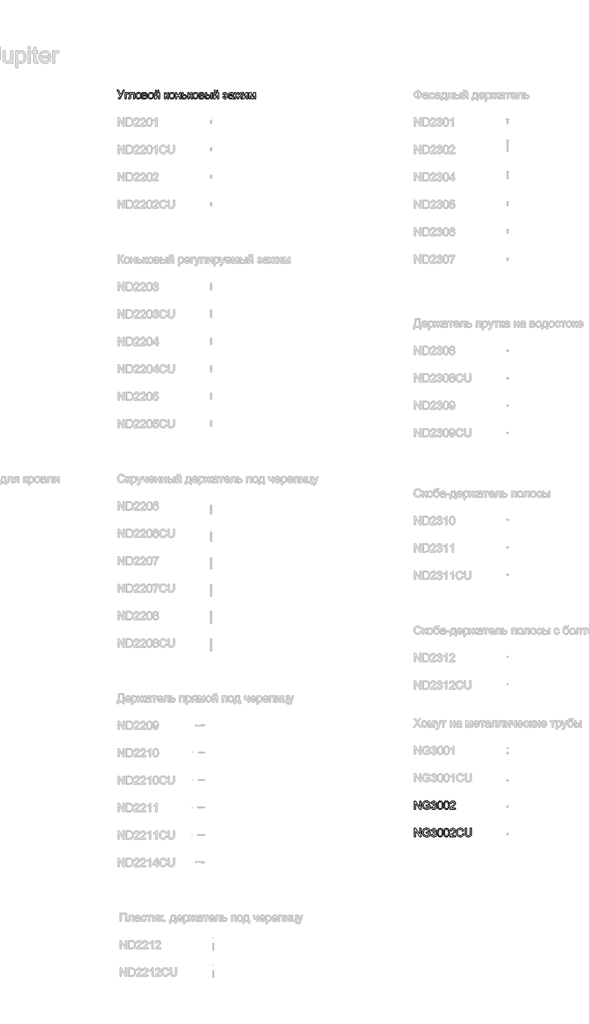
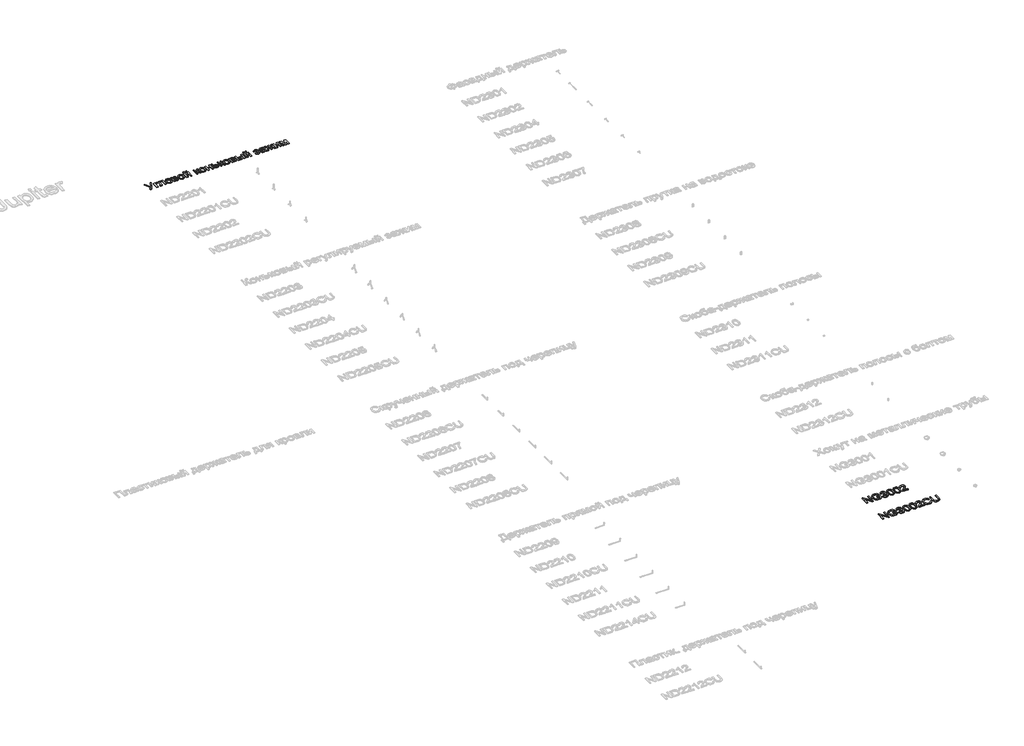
# One storey, part 103 of 124: 3 proxies.
"""IFC4 building model written with IfcOpenShell, lengths in millimetres."""

from ifc_helpers import new_model, si_unit, origin, origin_with_axes, place, context, project, spatial, polyline, outline, extrude, element, save

model = new_model("IFC4")

# Units and contexts
model_context = context("Model", 3, world=origin())
ifc_project = project(units=[si_unit("LENGTHUNIT", "METRE", prefix="MILLI")], contexts=[model_context])

# Site, building, storey
site = spatial("IfcSite", under=ifc_project)
building = spatial("IfcBuilding", under=site)
storey = spatial("IfcBuildingStorey", under=building, Name="Этаж 01", Elevation=0.0)

# Proxies
placement = place(None, origin())
element("IfcBuildingElementProxy", 1, Name="300", ObjectType="300", at=placement, inside=storey, context=model_context, shape_type="SweptSolid", body=[
    extrude(outline(polyline([(23318.9771246, -4218.1451728), (23360.6949429, -4218.1451728), (23450.8260317, -4396.6415169), (23531.9072234, -4218.1451728), (23573.2571597, -4218.1451728), (23458.8458592, -4452.9274621), (23441.5737995, -4489.3845679), (23427.7230424, -4510.611359), (23412.9525803, -4520.8200843), (23392.9214056, -4524.2229928), (23359.0026857, -4519.5141033), (23359.0026857, -4486.5518765), (23388.6539745, -4486.5518765), (23400.5181688, -4484.4549491), (23410.6533178, -4478.164167), (23420.3837966, -4464.4237745), (23431.0339803, -4439.9780159), (23318.9771246, -4218.1451728)])), origin_with_axes(), (0.0, 0.0, 1.0), 20.0),
    extrude(outline(polyline([(23603.8649417, -4298.196295), (23726.2960697, -4298.196295), (23726.2960697, -4335.8674113), (23641.536058, -4335.8674113), (23641.536058, -4519.5141033), (23603.8649417, -4519.5141033), (23603.8649417, -4298.196295)])), origin_with_axes(), (0.0, 0.0, 1.0), 20.0),
    extrude(outline(polyline([(23773.384965, -4298.196295), (23942.9049884, -4298.196295), (23942.9049884, -4519.2933741), (23905.2338721, -4519.2933741), (23905.2338721, -4335.8674113), (23811.0560814, -4335.8674113), (23811.0560814, -4441.4495439), (23808.5176956, -4490.15712), (23803.7628208, -4501.1843829), (23794.574968, -4510.7217236), (23780.6322404, -4517.3160083), (23761.6127412, -4519.5141033), (23731.0049592, -4517.6011169), (23731.0049592, -4481.842987), (23747.8539546, -4481.842987), (23764.886891, -4479.5253304), (23771.6927079, -4472.1676905), (23773.384965, -4439.3158283), (23773.384965, -4298.196295)])), origin_with_axes(), (0.0, 0.0, 1.0), 20.0),
    extrude(outline(polyline([(23989.9938838, -4408.8551991), (23992.0310304, -4380.1925932), (23998.14247, -4355.4939157), (24008.3282027, -4334.7591668), (24022.5882286, -4317.9883463), (24036.9448234, -4307.2691847), (24052.7913404, -4299.6126406), (24070.1277794, -4295.0187142), (24088.9541405, -4293.4874054), (24109.737174, -4295.3521073), (24128.5290461, -4300.9462129), (24145.329757, -4310.2697222), (24160.1393066, -4323.3226352), (24172.2265294, -4339.6634936), (24180.86026, -4358.8508389), (24186.0404983, -4380.8846712), (24187.7672444, -4405.7649904), (24184.7138239, -4443.8223828), (24175.5535622, -4472.7930899), (24160.5531738, -4494.4889305), (24139.9793732, -4510.7217236), (24115.5428117, -4520.8476755), (24088.9541405, -4524.2229928), (24067.8676044, -4522.3651887), (24048.9009883, -4516.7917765), (24032.0542922, -4507.5027561), (24017.3275161, -4494.4981276), (24005.3690519, -4477.9986201), (23996.8272919, -4458.2249629), (23991.7022358, -4435.1771559), (23989.9938838, -4408.8551991)]), holes=[polyline([(24027.6650001, -4408.7816227), (24032.0244018, -4442.8750866), (24045.1026067, -4467.1644953), (24064.7842934, -4481.7050312), (24088.9541405, -4486.5518765), (24113.013623, -4481.6774401), (24132.6585215, -4467.0541307), (24145.7367265, -4442.4428253), (24150.0961281, -4407.6044003), (24145.7091353, -4374.5042178), (24132.5481569, -4350.5459029), (24112.8756672, -4336.005367), (24088.9541405, -4331.1585217), (24064.7842934, -4335.9869729), (24045.1026067, -4350.4723265), (24032.0244018, -4374.7065529), (24027.6650001, -4408.7816227)])]), origin_with_axes(), (0.0, 0.0, 1.0), 20.0),
    extrude(outline(polyline([(24230.1472503, -4298.196295), (24313.1414284, -4298.196295), (24339.8220701, -4299.4562908), (24358.6484312, -4303.2362783), (24372.4991883, -4310.373189), (24384.253018, -4321.7039545), (24392.2820426, -4336.4652195), (24394.9583841, -4353.893629), (24393.3397033, -4367.9375242), (24388.483661, -4380.0500389), (24380.371863, -4390.2863554), (24368.9859152, -4398.701656), (24382.9286429, -4406.5283455), (24394.2961965, -4419.1191068), (24401.8561715, -4435.4806585), (24404.3761632, -4454.6197193), (24397.9934106, -4483.332909), (24382.8182783, -4503.5480247), (24358.795584, -4515.5225836), (24325.8701454, -4519.5141033), (24230.1472503, -4519.5141033), (24230.1472503, -4298.196295)]), holes=[polyline([(24267.8183666, -4382.9563067), (24305.0480245, -4382.9563067), (24335.7661711, -4381.0433203), (24350.7021801, -4373.3913748), (24355.6409959, -4367.0638045), (24357.2872678, -4359.5590118), (24354.3993941, -4348.3202168), (24345.7357731, -4341.0913356), (24330.0823942, -4337.1733924), (24306.2252469, -4335.8674113), (24267.8183666, -4335.8674113), (24267.8183666, -4382.9563067)]), polyline([(24267.8183666, -4481.842987), (24314.0243452, -4481.842987), (24339.2058677, -4480.1415327), (24355.0063994, -4475.03717), (24363.4860794, -4465.7573467), (24366.7050469, -4451.5295106), (24365.0955631, -4442.1025344), (24360.267112, -4433.3929282), (24352.8542898, -4426.5779142), (24343.491693, -4422.8347149), (24310.3455252, -4420.627423), (24267.8183666, -4420.627423), (24267.8183666, -4481.842987)])]), origin_with_axes(), (0.0, 0.0, 1.0), 20.0),
    extrude(outline(polyline([(24442.0472795, -4408.8551991), (24444.084426, -4380.1925932), (24450.1958657, -4355.4939157), (24460.3815984, -4334.7591668), (24474.6416243, -4317.9883463), (24488.9982191, -4307.2691847), (24504.8447361, -4299.6126406), (24522.1811751, -4295.0187142), (24541.0075362, -4293.4874054), (24561.7905696, -4295.3521073), (24580.5824418, -4300.9462129), (24597.3831527, -4310.2697222), (24612.1927023, -4323.3226352), (24624.2799251, -4339.6634936), (24632.9136556, -4358.8508389), (24638.093894, -4380.8846712), (24639.8206401, -4405.7649904), (24636.7672195, -4443.8223828), (24627.6069578, -4472.7930899), (24612.6065695, -4494.4889305), (24592.0327689, -4510.7217236), (24567.5962074, -4520.8476755), (24541.0075362, -4524.2229928), (24519.9210001, -4522.3651887), (24500.954384, -4516.7917765), (24484.1076878, -4507.5027561), (24469.3809117, -4494.4981276), (24457.4224476, -4477.9986201), (24448.8806875, -4458.2249629), (24443.7556315, -4435.1771559), (24442.0472795, -4408.8551991)]), holes=[polyline([(24479.7183958, -4408.7816227), (24484.0777974, -4442.8750866), (24497.1560024, -4467.1644953), (24516.8376891, -4481.7050312), (24541.0075362, -4486.5518765), (24565.0670187, -4481.6774401), (24584.7119172, -4467.0541307), (24597.7901221, -4442.4428253), (24602.1495238, -4407.6044003), (24597.762531, -4374.5042178), (24584.6015526, -4350.5459029), (24564.9290629, -4336.005367), (24541.0075362, -4331.1585217), (24516.8376891, -4335.9869729), (24497.1560024, -4350.4723265), (24484.0777974, -4374.7065529), (24479.7183958, -4408.7816227)])]), origin_with_axes(), (0.0, 0.0, 1.0), 20.0),
    extrude(outline(polyline([(24682.2006459, -4298.196295), (24719.8717622, -4298.196295), (24719.8717622, -4466.9805543), (24812.4308722, -4298.196295), (24861.1384484, -4298.196295), (24861.1384484, -4519.5141033), (24823.4673321, -4519.5141033), (24823.4673321, -4351.7599135), (24731.4968333, -4519.5141033), (24682.2006459, -4519.5141033), (24682.2006459, -4298.196295)])), origin_with_axes(), (0.0, 0.0, 1.0), 20.0),
    extrude(outline(polyline([(24804.6317739, -4218.1451728), (24832.8851112, -4218.1451728), (24826.8058612, -4242.2690346), (24814.601376, -4260.0469321), (24796.8234786, -4271.0006185), (24774.0239919, -4274.6518473), (24749.2839278, -4271.0282096), (24730.0988817, -4260.1572967), (24716.9838886, -4242.4069904), (24710.4539832, -4218.1451728), (24738.7073204, -4218.1451728), (24742.6804459, -4230.5519931), (24749.3023219, -4239.3719639), (24758.6097363, -4244.6418735), (24770.6394776, -4246.39851), (24784.2143232, -4244.6970558), (24794.0367725, -4239.5926931), (24800.6586484, -4230.8279046), (24804.6317739, -4218.1451728)])), origin_with_axes(), (0.0, 0.0, 1.0), 20.0),
    extrude(outline(polyline([(25035.3673613, -4298.196295), (25073.0384776, -4298.196295), (25073.0384776, -4392.3740857), (25088.3607627, -4390.6818285), (25098.2751825, -4385.605057), (25107.0491681, -4372.3613052), (25118.9501506, -4346.1681071), (25136.1302398, -4312.1390226), (25151.286978, -4301.0657745), (25178.8413394, -4298.196295), (25186.0518265, -4298.196295), (25186.0518265, -4336.0881405), (25175.8982835, -4335.8674113), (25157.5041837, -4339.8405368), (25144.5547375, -4364.6357833), (25129.3612111, -4391.4543807), (25108.0608435, -4404.587768), (25119.9986143, -4409.8898672), (25131.8260204, -4419.2478655), (25155.1497389, -4450.131559), (25195.4696056, -4519.5141033), (25152.6481414, -4519.5141033), (25113.1376151, -4451.603087), (25093.2719873, -4422.8715031), (25083.982967, -4417.6567758), (25073.0384776, -4415.9185334), (25073.0384776, -4519.5141033), (25035.3673613, -4519.5141033), (25035.3673613, -4298.196295)])), origin_with_axes(), (0.0, 0.0, 1.0), 20.0),
    extrude(outline(polyline([(25209.5962742, -4408.8551991), (25211.6334208, -4380.1925932), (25217.7448604, -4355.4939157), (25227.9305932, -4334.7591668), (25242.190619, -4317.9883463), (25256.5472139, -4307.2691847), (25272.3937308, -4299.6126406), (25289.7301698, -4295.0187142), (25308.5565309, -4293.4874054), (25329.3395644, -4295.3521073), (25348.1314366, -4300.9462129), (25364.9321474, -4310.2697222), (25379.741697, -4323.3226352), (25391.8289198, -4339.6634936), (25400.4626504, -4358.8508389), (25405.6428887, -4380.8846712), (25407.3696348, -4405.7649904), (25404.3162143, -4443.8223828), (25395.1559526, -4472.7930899), (25380.1555642, -4494.4889305), (25359.5817637, -4510.7217236), (25335.1452021, -4520.8476755), (25308.5565309, -4524.2229928), (25287.4699948, -4522.3651887), (25268.5033787, -4516.7917765), (25251.6566826, -4507.5027561), (25236.9299065, -4494.4981276), (25224.9714424, -4477.9986201), (25216.4296823, -4458.2249629), (25211.3046262, -4435.1771559), (25209.5962742, -4408.8551991)]), holes=[polyline([(25247.2673905, -4408.7816227), (25251.6267922, -4442.8750866), (25264.7049971, -4467.1644953), (25284.3866838, -4481.7050312), (25308.5565309, -4486.5518765), (25332.6160134, -4481.6774401), (25352.2609119, -4467.0541307), (25365.3391169, -4442.4428253), (25369.6985185, -4407.6044003), (25365.3115257, -4374.5042178), (25352.1505473, -4350.5459029), (25332.4780577, -4336.005367), (25308.5565309, -4331.1585217), (25284.3866838, -4335.9869729), (25264.7049971, -4350.4723265), (25251.6267922, -4374.7065529), (25247.2673905, -4408.7816227)])]), origin_with_axes(), (0.0, 0.0, 1.0), 20.0),
    extrude(outline(polyline([(25449.7496407, -4298.196295), (25487.420757, -4298.196295), (25487.420757, -4382.9563067), (25586.3074373, -4382.9563067), (25586.3074373, -4298.196295), (25623.9785536, -4298.196295), (25623.9785536, -4519.5141033), (25586.3074373, -4519.5141033), (25586.3074373, -4420.627423), (25487.420757, -4420.627423), (25487.420757, -4519.5141033), (25449.7496407, -4519.5141033), (25449.7496407, -4298.196295)])), origin_with_axes(), (0.0, 0.0, 1.0), 20.0),
    extrude(outline(polyline([(25680.485228, -4298.196295), (25718.1563444, -4298.196295), (25718.1563444, -4378.2474171), (25761.5664198, -4378.2474171), (25799.2007479, -4382.9655037), (25814.348289, -4388.8631119), (25827.0494149, -4397.1197635), (25837.0925934, -4407.4503497), (25844.2662923, -4419.5697622), (25850.0052514, -4449.1750658), (25845.1216179, -4476.131619), (25830.4707175, -4498.8759233), (25819.2388203, -4507.9051271), (25805.0776628, -4514.3545583), (25767.9675665, -4519.5141033), (25680.485228, -4519.5141033), (25680.485228, -4298.196295)]), holes=[polyline([(25718.1563444, -4481.842987), (25753.3258631, -4481.842987), (25780.6135101, -4479.8656212), (25798.7592895, -4473.9335241), (25808.9404237, -4463.8075721), (25812.3341351, -4449.2486422), (25809.8233405, -4436.9429894), (25802.2909566, -4426.0720765), (25786.1501341, -4418.4569192), (25757.8140234, -4415.9185334), (25718.1563444, -4415.9185334), (25718.1563444, -4481.842987)])]), origin_with_axes(), (0.0, 0.0, 1.0), 20.0),
    extrude(outline(polyline([(25897.0941468, -4298.196295), (25934.7652631, -4298.196295), (25934.7652631, -4392.3740857), (25950.0875482, -4390.6818285), (25960.001968, -4385.605057), (25968.7759536, -4372.3613052), (25980.6769361, -4346.1681071), (25997.8570253, -4312.1390226), (26013.0137635, -4301.0657745), (26040.5681249, -4298.196295), (26047.778612, -4298.196295), (26047.778612, -4336.0881405), (26037.625069, -4335.8674113), (26019.2309692, -4339.8405368), (26006.281523, -4364.6357833), (25991.0879966, -4391.4543807), (25969.7876291, -4404.587768), (25981.7253998, -4409.8898672), (25993.5528059, -4419.2478655), (26016.8765244, -4450.131559), (26057.1963911, -4519.5141033), (26014.3749269, -4519.5141033), (25974.8644006, -4451.603087), (25954.9987728, -4422.8715031), (25945.7097525, -4417.6567758), (25934.7652631, -4415.9185334), (25934.7652631, -4519.5141033), (25897.0941468, -4519.5141033), (25897.0941468, -4298.196295)])), origin_with_axes(), (0.0, 0.0, 1.0), 20.0),
    extrude(outline(polyline([(26071.3230597, -4408.8551991), (26073.3602063, -4380.1925932), (26079.4716459, -4355.4939157), (26089.6573787, -4334.7591668), (26103.9174045, -4317.9883463), (26118.2739994, -4307.2691847), (26134.1205163, -4299.6126406), (26151.4569553, -4295.0187142), (26170.2833164, -4293.4874054), (26191.0663499, -4295.3521073), (26209.8582221, -4300.9462129), (26226.6589329, -4310.2697222), (26241.4684825, -4323.3226352), (26253.5557053, -4339.6634936), (26262.1894359, -4358.8508389), (26267.3696742, -4380.8846712), (26269.0964203, -4405.7649904), (26266.0429998, -4443.8223828), (26256.8827381, -4472.7930899), (26241.8823497, -4494.4889305), (26221.3085492, -4510.7217236), (26196.8719876, -4520.8476755), (26170.2833164, -4524.2229928), (26149.1967803, -4522.3651887), (26130.2301642, -4516.7917765), (26113.3834681, -4507.5027561), (26098.656692, -4494.4981276), (26086.6982279, -4477.9986201), (26078.1564678, -4458.2249629), (26073.0314117, -4435.1771559), (26071.3230597, -4408.8551991)]), holes=[polyline([(26108.994176, -4408.7816227), (26113.3535777, -4442.8750866), (26126.4317826, -4467.1644953), (26146.1134693, -4481.7050312), (26170.2833164, -4486.5518765), (26194.3427989, -4481.6774401), (26213.9876975, -4467.0541307), (26227.0659024, -4442.4428253), (26231.425304, -4407.6044003), (26227.0383112, -4374.5042178), (26213.8773329, -4350.5459029), (26194.2048432, -4336.005367), (26170.2833164, -4331.1585217), (26146.1134693, -4335.9869729), (26126.4317826, -4350.4723265), (26113.3535777, -4374.7065529), (26108.994176, -4408.7816227)])]), origin_with_axes(), (0.0, 0.0, 1.0), 20.0),
    extrude(outline(polyline([(26311.4764262, -4298.196295), (26394.4706043, -4298.196295), (26421.151246, -4299.4562908), (26439.9776071, -4303.2362783), (26453.8283642, -4310.373189), (26465.582194, -4321.7039545), (26473.6112185, -4336.4652195), (26476.28756, -4353.893629), (26474.6688792, -4367.9375242), (26469.8128369, -4380.0500389), (26461.7010389, -4390.2863554), (26450.3150912, -4398.701656), (26464.2578188, -4406.5283455), (26475.6253724, -4419.1191068), (26483.1853474, -4435.4806585), (26485.7053391, -4454.6197193), (26479.3225865, -4483.332909), (26464.1474542, -4503.5480247), (26440.1247599, -4515.5225836), (26407.1993213, -4519.5141033), (26311.4764262, -4519.5141033), (26311.4764262, -4298.196295)]), holes=[polyline([(26349.1475425, -4382.9563067), (26386.3772004, -4382.9563067), (26417.095347, -4381.0433203), (26432.031356, -4373.3913748), (26436.9701718, -4367.0638045), (26438.6164437, -4359.5590118), (26435.72857, -4348.3202168), (26427.0649491, -4341.0913356), (26411.4115702, -4337.1733924), (26387.5544228, -4335.8674113), (26349.1475425, -4335.8674113), (26349.1475425, -4382.9563067)]), polyline([(26349.1475425, -4481.842987), (26395.3535211, -4481.842987), (26420.5350436, -4480.1415327), (26436.3355753, -4475.03717), (26444.8152553, -4465.7573467), (26448.0342228, -4451.5295106), (26446.4247391, -4442.1025344), (26441.5962879, -4433.3929282), (26434.1834657, -4426.5779142), (26424.8208689, -4422.8347149), (26391.6747011, -4420.627423), (26349.1475425, -4420.627423), (26349.1475425, -4481.842987)])]), origin_with_axes(), (0.0, 0.0, 1.0), 20.0),
    extrude(outline(polyline([(26739.9853742, -4298.196295), (26777.6564905, -4298.196295), (26777.6564905, -4519.5141033), (26739.9853742, -4519.5141033), (26739.9853742, -4298.196295)])), origin_with_axes(), (0.0, 0.0, 1.0), 20.0),
    extrude(outline(polyline([(26532.7942345, -4298.196295), (26570.4653508, -4298.196295), (26570.4653508, -4378.2474171), (26617.0392114, -4378.2474171), (26657.2946987, -4382.9655037), (26673.5113969, -4388.8631119), (26687.1207314, -4397.1197635), (26697.8881776, -4407.4503497), (26705.5792106, -4419.5697622), (26710.1938303, -4433.4780009), (26711.7320369, -4449.1750658), (26706.5724919, -4476.131619), (26691.093857, -4498.8759233), (26679.2319619, -4507.9051271), (26664.2844566, -4514.3545583), (26625.1326153, -4519.5141033), (26532.7942345, -4519.5141033), (26532.7942345, -4298.196295)]), holes=[polyline([(26570.4653508, -4481.842987), (26609.1665367, -4481.842987), (26639.1673134, -4479.8656212), (26659.1249116, -4473.9335241), (26670.3269184, -4463.8075721), (26674.0609206, -4449.2486422), (26671.2926086, -4436.9429894), (26662.9876726, -4426.0720765), (26645.2281692, -4418.4569192), (26614.0961554, -4415.9185334), (26570.4653508, -4415.9185334), (26570.4653508, -4481.842987)])]), origin_with_axes(), (0.0, 0.0, 1.0), 20.0),
    extrude(outline(polyline([(26834.1631649, -4298.196295), (26871.8342812, -4298.196295), (26871.8342812, -4466.9805543), (26964.3933912, -4298.196295), (27013.1009674, -4298.196295), (27013.1009674, -4519.5141033), (26975.4298511, -4519.5141033), (26975.4298511, -4351.7599135), (26883.4593523, -4519.5141033), (26834.1631649, -4519.5141033), (26834.1631649, -4298.196295)])), origin_with_axes(), (0.0, 0.0, 1.0), 20.0),
    extrude(outline(polyline([(26956.5942929, -4218.1451728), (26984.8476301, -4218.1451728), (26978.7683802, -4242.2690346), (26966.563895, -4260.0469321), (26948.7859976, -4271.0006185), (26925.9865109, -4274.6518473), (26901.2464467, -4271.0282096), (26882.0614007, -4260.1572967), (26868.9464076, -4242.4069904), (26862.4165021, -4218.1451728), (26890.6698394, -4218.1451728), (26894.6429649, -4230.5519931), (26901.2648408, -4239.3719639), (26910.5722553, -4244.6418735), (26922.6019966, -4246.39851), (26936.1768422, -4244.6970558), (26945.9992915, -4239.5926931), (26952.6211674, -4230.8279046), (26956.5942929, -4218.1451728)])), origin_with_axes(), (0.0, 0.0, 1.0), 20.0),
    extrude(outline(polyline([(27239.1276652, -4420.627423), (27239.1276652, -4382.9563067), (27268.8525304, -4381.4847787), (27283.8621158, -4373.6488922), (27289.1596166, -4366.3004493), (27290.9254501, -4357.2781434), (27288.5618083, -4346.5635803), (27281.4708829, -4338.2586442), (27270.6459551, -4332.9335524), (27257.0803066, -4331.1585217), (27243.3675052, -4332.9243553), (27231.8803899, -4338.221856), (27222.6189607, -4347.0510239), (27215.5832175, -4359.411859), (27173.2032117, -4354.7029694), (27184.4420066, -4327.9211602), (27201.5301253, -4308.7912964), (27224.4675677, -4297.3133782), (27253.2543338, -4293.4874054), (27284.7450326, -4298.1503097), (27308.5837859, -4312.1390226), (27323.5933713, -4332.6024586), (27328.5965664, -4356.6895322), (27326.8169373, -4369.0503672), (27321.4780498, -4380.0868271), (27312.5799041, -4389.7989118), (27300.1225, -4398.1866213), (27314.6630359, -4408.652864), (27325.0281111, -4421.6574925), (27331.2361198, -4437.237295), (27333.305456, -4455.4290597), (27328.0539405, -4483.1581651), (27312.2993941, -4505.1299172), (27287.1086744, -4519.4497239), (27253.5486394, -4524.2229928), (27220.7243684, -4519.8084089), (27195.6072252, -4506.564657), (27178.1972098, -4484.4917373), (27168.4943221, -4453.5896497), (27210.874328, -4448.8807602), (27217.2202924, -4464.8100506), (27227.8704762, -4476.692639), (27241.5924746, -4484.0870671), (27257.153883, -4486.5518765), (27272.3106212, -4484.1882347), (27284.6714562, -4477.0973092), (27292.8936188, -4466.3275638), (27295.6343397, -4452.9274621), (27293.9328854, -4442.3140666), (27288.8285228, -4433.1354108), (27274.3339721, -4422.5404093), (27246.4853051, -4420.4066938), (27239.1276652, -4420.627423)])), origin_with_axes(), (0.0, 0.0, 1.0), 20.0),
    extrude(outline(polyline([(27521.6610375, -4491.260766), (27503.6624109, -4506.6934157), (27485.1303554, -4516.7917765), (27465.6418067, -4522.3651887), (27444.7737005, -4524.2229928), (27413.2921988, -4519.7532266), (27390.0696478, -4506.3439278), (27375.7498412, -4485.9816594), (27370.9765723, -4460.652984), (27372.7791941, -4445.0363933), (27378.1870594, -4430.8545424), (27386.5287836, -4418.7144366), (27397.1329821, -4409.2230811), (27423.5101212, -4396.8622461), (27456.104466, -4391.1968633), (27494.6217109, -4385.237175), (27521.4403083, -4378.2474171), (27521.6610375, -4369.8597076), (27519.0674694, -4353.0475004), (27511.2867652, -4342.0478288), (27493.8859469, -4333.8808485), (27469.6425234, -4331.1585217), (27447.2017217, -4332.9703406), (27431.5299487, -4338.405797), (27420.8429767, -4348.4581726), (27413.3565781, -4364.1207485), (27375.6854618, -4359.411859), (27382.2245643, -4338.8104672), (27391.9826342, -4322.6236594), (27405.8701795, -4310.2444303), (27424.7977082, -4301.0657745), (27447.9466827, -4295.3819977), (27474.4985657, -4293.4874054), (27499.9651968, -4295.1612685), (27520.1527213, -4300.1828577), (27535.3738389, -4307.7336357), (27545.9412492, -4316.9950649), (27552.9494012, -4328.445392), (27557.4927438, -4342.5628636), (27559.3321538, -4375.5250903), (27559.3321538, -4422.3932565), (27561.2451402, -4487.8394635), (27568.7499329, -4519.5141033), (27531.0788166, -4519.5141033), (27521.6610375, -4491.260766)]), holes=[polyline([(27521.6610375, -4415.9185334), (27460.8869319, -4427.4700281), (27428.4765281, -4433.5768692), (27413.7980365, -4443.5096831), (27408.6476886, -4458.0042337), (27411.4527888, -4469.2062404), (27419.8680894, -4478.3848962), (27433.7096495, -4484.5101314), (27452.793528, -4486.5518765), (27473.0270377, -4484.2985993), (27490.9061027, -4477.5387676), (27505.4006533, -4467.5783626), (27515.48062, -4455.7233653), (27519.9503862, -4443.5096831), (27521.4403083, -4426.5871113), (27521.6610375, -4415.9185334)])]), origin_with_axes(), (0.0, 0.0, 1.0), 20.0),
    extrude(outline(polyline([(27747.6877353, -4298.196295), (27747.6877353, -4392.3740857), (27760.9774724, -4390.4335082), (27769.6502905, -4384.6117756), (27790.4356232, -4344.3286972), (27803.4034635, -4319.220751), (27815.2308697, -4305.7010877), (27829.5966616, -4300.0724931), (27850.4739648, -4298.196295), (27865.4099738, -4298.196295), (27865.4099738, -4336.0881405), (27855.0357015, -4335.8674113), (27835.6115322, -4339.7669604), (27822.1470512, -4364.1943249), (27806.5120664, -4390.9761341), (27784.1816293, -4404.587768), (27796.574654, -4409.8898672), (27808.8113288, -4419.2478655), (27832.815629, -4450.131559), (27874.8277529, -4519.5141033), (27831.6384066, -4519.5141033), (27790.2884704, -4451.0880522), (27778.9852961, -4433.1262137), (27769.2088321, -4422.6507739), (27759.3220034, -4417.6015935), (27747.6877353, -4415.9185334), (27747.6877353, -4519.5141033), (27710.016619, -4519.5141033), (27710.016619, -4415.9185334), (27698.4743214, -4417.5648053), (27688.5690987, -4422.5036211), (27678.7190583, -4432.9054845), (27667.3423076, -4450.9408994), (27625.9923713, -4519.5141033), (27582.8766015, -4519.5141033), (27624.7415726, -4450.131559), (27648.9298137, -4419.2478655), (27661.230868, -4409.8898672), (27673.6698779, -4404.587768), (27659.2856919, -4397.3772809), (27649.9782774, -4389.5781826), (27629.6711913, -4350.9505731), (27619.7383774, -4338.221856), (27603.4779932, -4335.6466821), (27592.2943806, -4335.8674113), (27592.2943806, -4298.196295), (27597.9597633, -4298.196295), (27630.9955665, -4300.5507397), (27648.1388674, -4310.55713), (27667.3423076, -4344.3286972), (27687.9069111, -4384.3542582), (27696.5797292, -4390.3691289), (27710.016619, -4392.3740857), (27710.016619, -4298.196295), (27747.6877353, -4298.196295)])), origin_with_axes(), (0.0, 0.0, 1.0), 20.0),
    extrude(outline(polyline([(27893.663311, -4298.196295), (27931.3344273, -4298.196295), (27931.3344273, -4466.9805543), (28023.8935373, -4298.196295), (28072.6011135, -4298.196295), (28072.6011135, -4519.5141033), (28034.9299972, -4519.5141033), (28034.9299972, -4351.7599135), (27942.9594984, -4519.5141033), (27893.663311, -4519.5141033), (27893.663311, -4298.196295)])), origin_with_axes(), (0.0, 0.0, 1.0), 20.0),
    extrude(outline(polyline([(28129.1077879, -4298.196295), (28193.9285955, -4298.196295), (28243.8869704, -4475.3682638), (28297.7448945, -4298.196295), (28359.8433753, -4298.196295), (28359.8433753, -4519.5141033), (28322.172259, -4519.5141033), (28322.172259, -4341.3120648), (28268.0200293, -4519.5141033), (28218.5766892, -4519.5141033), (28166.7789042, -4332.7772025), (28166.7789042, -4519.5141033), (28129.1077879, -4519.5141033), (28129.1077879, -4298.196295)])), origin_with_axes(), (0.0, 0.0, 1.0), 20.0),
])
element("IfcBuildingElementProxy", 2, Name="300", ObjectType="300", at=placement, inside=storey, context=model_context, shape_type="SweptSolid", body=[
    extrude(outline(polyline([(34161.4897718, -30431.446857), (34161.4897718, -30130.0779265), (34201.8096385, -30130.0779265), (34359.2631324, -30368.8333414), (34359.2631324, -30130.0779265), (34396.9342487, -30130.0779265), (34396.9342487, -30431.446857), (34356.6143821, -30431.446857), (34199.1608881, -30192.6178657), (34199.1608881, -30431.446857), (34161.4897718, -30431.446857)])), origin_with_axes(), (0.0, 0.0, 1.0), 20.0),
    extrude(outline(polyline([(34604.1253884, -30313.7246185), (34604.1253884, -30276.0535022), (34726.5565164, -30276.0535022), (34726.5565164, -30388.6989691), (34696.8040601, -30409.3923314), (34666.1135046, -30424.2363699), (34634.5584265, -30433.1759024), (34602.2124021, -30436.1557465), (34559.9519579, -30431.4192658), (34521.7566097, -30417.2098238), (34490.0267876, -30394.024061), (34467.1629216, -30362.3586183), (34453.3397557, -30324.3748023), (34448.7320337, -30282.2339197), (34453.3213616, -30239.7895345), (34467.0893452, -30200.3065994), (34489.4657676, -30167.1880228), (34519.8804115, -30143.8367132), (34556.9261284, -30129.985956), (34599.1957697, -30125.369037), (34630.226616, -30128.0453785), (34658.1304653, -30136.0744031), (34681.6289278, -30148.8766965), (34699.4436134, -30165.8728447), (34712.6229859, -30187.881385), (34722.2155089, -30215.720855), (34687.4874485, -30225.5065161), (34679.7343355, -30205.6500854), (34670.3073594, -30190.6680911), (34657.8361597, -30179.3741139), (34640.9503761, -30170.5817342), (34620.818034, -30164.9255485), (34598.6071585, -30163.0401533), (34572.6070985, -30165.0727013), (34550.3778289, -30171.1703454), (34532.0021233, -30180.5697304), (34517.562755, -30192.5075011), (34498.1753738, -30221.5333905), (34489.3462059, -30249.9706688), (34486.40315, -30280.6888154), (34489.9440142, -30316.7136597), (34500.5666068, -30346.3557515), (34517.9490311, -30369.4035585), (34541.7693902, -30385.6455486), (34569.6456484, -30395.2748598), (34599.1957697, -30398.4846302), (34625.2878002, -30396.0658061), (34650.7360372, -30388.8093337), (34672.8365481, -30378.8121405), (34688.8854001, -30368.1711538), (34688.8854001, -30313.7246185), (34604.1253884, -30313.7246185)])), origin_with_axes(), (0.0, 0.0, 1.0), 20.0),
    extrude(outline(polyline([(34773.6454118, -30351.3957348), (34811.3165281, -30346.6868453), (34819.7502228, -30370.3600517), (34832.1018608, -30386.3445244), (34848.9784474, -30395.4496038), (34870.9869877, -30398.4846302), (34896.8123038, -30394.3091696), (34916.7515079, -30381.7827876), (34929.4986191, -30363.0943823), (34933.7476561, -30340.4328514), (34929.5354073, -30318.9209517), (34916.8986607, -30301.4741481), (34897.768797, -30289.9134564), (34874.0771965, -30286.0598925), (34847.6632692, -30290.1801708), (34851.857124, -30252.5090545), (34857.8903887, -30252.9505129), (34880.4599491, -30250.2465803), (34900.6382765, -30242.1347823), (34914.8753098, -30228.4127838), (34919.6209875, -30208.8782499), (34916.1812908, -30192.6086687), (34905.8622009, -30179.4109021), (34890.1168515, -30170.6645077), (34870.3983765, -30167.7490428), (34850.6431134, -30170.6920988), (34834.4930938, -30179.5212667), (34822.7024759, -30194.2365465), (34816.0254176, -30214.8379382), (34778.3543013, -30210.1290487), (34789.4459435, -30176.3022992), (34809.1828125, -30151.0472003), (34836.185351, -30135.320245), (34869.0740014, -30130.0779265), (34892.7564048, -30132.6622975), (34914.5074278, -30140.4154106), (34932.8463452, -30152.6474869), (34946.2924321, -30168.6687478), (34954.5421859, -30187.1272269), (34957.2921038, -30206.6709579), (34954.6801416, -30224.8811167), (34946.8442551, -30241.3990183), (34933.8948089, -30255.4705046), (34915.9421675, -30266.3414175), (34939.5234034, -30275.8695612), (34956.9977982, -30292.0931572), (34967.8135289, -30314.1292887), (34971.4187724, -30341.095039), (34969.6161506, -30360.2065086), (34964.2082853, -30377.8096621), (34955.1951764, -30393.9044994), (34942.576824, -30408.4910205), (34927.2039551, -30420.5943381), (34909.9272969, -30429.239565), (34890.7468494, -30434.4267011), (34869.6626125, -30436.1557465), (34850.6063252, -30434.67962), (34833.242295, -30430.2512405), (34817.570522, -30422.870608), (34803.5910062, -30412.5377224), (34791.8693661, -30399.8595892), (34782.9712204, -30385.4432135), (34776.8965689, -30369.2885954), (34773.6454118, -30351.3957348)])), origin_with_axes(), (0.0, 0.0, 1.0), 20.0),
    extrude(outline(polyline([(35004.3809992, -30283.1904129), (35007.1493112, -30234.9518863), (35015.4542472, -30196.4806267), (35029.2130339, -30167.1880228), (35048.3428976, -30146.4854635), (35072.9817942, -30134.1798108), (35103.2676795, -30130.0779265), (35126.4810334, -30132.5059477), (35147.2663661, -30139.7900112), (35164.6487904, -30151.6450085), (35177.6534189, -30167.785831), (35187.4758682, -30188.0745231), (35195.3117547, -30212.3731289), (35200.4437085, -30243.2292312), (35202.1543598, -30283.1904129), (35199.4136389, -30331.153028), (35191.1914763, -30369.5323172), (35177.5154632, -30398.8525122), (35158.4131906, -30419.6378449), (35133.7191116, -30432.0262711), (35103.2676795, -30436.1557465), (35082.519135, -30434.3623218), (35064.1250352, -30428.9820476), (35048.0853802, -30420.014924), (35034.40017, -30407.4609509), (35021.2667828, -30384.7672303), (35011.8857919, -30356.4909005), (35006.2571974, -30322.6319613), (35004.3809992, -30283.1904129)]), holes=[polyline([(35042.0521155, -30283.1168365), (35046.4666994, -30342.3734289), (35051.9849294, -30362.6414276), (35059.7104513, -30376.6692279), (35079.4289262, -30393.0307796), (35103.2676795, -30398.4846302), (35127.1064328, -30393.0123855), (35146.8249077, -30376.5956515), (35154.5504296, -30362.5448585), (35160.0686595, -30342.2814584), (35164.4832435, -30283.1168365), (35160.2158123, -30225.1938164), (35154.8815234, -30204.9924963), (35147.4135189, -30190.6313029), (35127.7318322, -30173.4696079), (35102.8262211, -30167.7490428), (35079.2449852, -30172.7890262), (35060.2990624, -30187.9089762), (35052.3160232, -30203.543961), (35046.6138522, -30224.6235993), (35042.0521155, -30283.1168365)])]), origin_with_axes(), (0.0, 0.0, 1.0), 20.0),
    extrude(outline(polyline([(35235.1165866, -30283.1904129), (35237.8848986, -30234.9518863), (35246.1898346, -30196.4806267), (35259.9486212, -30167.1880228), (35279.078485, -30146.4854635), (35303.7173816, -30134.1798108), (35334.0032669, -30130.0779265), (35357.2166208, -30132.5059477), (35378.0019535, -30139.7900112), (35395.3843778, -30151.6450085), (35408.3890063, -30167.785831), (35418.2114556, -30188.0745231), (35426.0473421, -30212.3731289), (35431.1792959, -30243.2292312), (35432.8899472, -30283.1904129), (35430.1492263, -30331.153028), (35421.9270637, -30369.5323172), (35408.2510505, -30398.8525122), (35389.1487779, -30419.6378449), (35364.454699, -30432.0262711), (35334.0032669, -30436.1557465), (35313.2547223, -30434.3623218), (35294.8606226, -30428.9820476), (35278.8209676, -30420.014924), (35265.1357574, -30407.4609509), (35252.0023701, -30384.7672303), (35242.6213793, -30356.4909005), (35236.9927847, -30322.6319613), (35235.1165866, -30283.1904129)]), holes=[polyline([(35272.7877029, -30283.1168365), (35277.2022868, -30342.3734289), (35282.7205167, -30362.6414276), (35290.4460386, -30376.6692279), (35310.1645136, -30393.0307796), (35334.0032669, -30398.4846302), (35357.8420201, -30393.0123855), (35377.5604951, -30376.5956515), (35385.286017, -30362.5448585), (35390.8042469, -30342.2814584), (35395.2188309, -30283.1168365), (35390.9513997, -30225.1938164), (35385.6171108, -30204.9924963), (35378.1491063, -30190.6313029), (35358.4674195, -30173.4696079), (35333.5618085, -30167.7490428), (35309.9805726, -30172.7890262), (35291.0346498, -30187.9089762), (35283.0516105, -30203.543961), (35277.3494396, -30224.6235993), (35272.7877029, -30283.1168365)])]), origin_with_axes(), (0.0, 0.0, 1.0), 20.0),
    extrude(outline(polyline([(35658.916645, -30393.7757407), (35658.916645, -30431.446857), (35461.1432844, -30431.446857), (35465.1899863, -30405.4743881), (35474.4790067, -30385.176499), (35488.0722464, -30365.4856152), (35507.7355391, -30344.8750265), (35535.2347182, -30321.8180224), (35575.8856787, -30285.7104046), (35600.276255, -30259.057354), (35612.4715431, -30237.4258927), (35616.5366392, -30216.3830426), (35612.7014694, -30197.5198933), (35601.19596, -30181.8389233), (35583.510033, -30171.2715129), (35561.1336107, -30167.7490428), (35537.6351482, -30171.1887395), (35519.3790042, -30181.5078295), (35507.5975833, -30197.8969723), (35503.5232902, -30219.5468278), (35465.8521739, -30214.8379382), (35474.9848445, -30178.3992266), (35483.5312031, -30163.8632893), (35494.7309105, -30151.7829642), (35508.3264495, -30142.2870102), (35524.0603026, -30135.504186), (35561.9429511, -30130.0779265), (35582.1327748, -30131.5862427), (35600.101511, -30136.1111913), (35615.8491597, -30143.6527722), (35629.3757208, -30154.2109854), (35640.239736, -30167.0040818), (35647.9997468, -30181.2503121), (35652.6557533, -30196.9496762), (35654.2077555, -30214.1021742), (35652.5338924, -30232.1191949), (35647.5123031, -30249.823516), (35638.6003618, -30267.8313396), (35625.2554424, -30286.7588683), (35603.9826661, -30309.3560198), (35571.2871537, -30338.3727122), (35527.9506547, -30374.6090887), (35510.9545065, -30393.7757407), (35658.916645, -30393.7757407)])), origin_with_axes(), (0.0, 0.0, 1.0), 20.0),
])
element("IfcBuildingElementProxy", 3, Name="300", ObjectType="300", at=placement, inside=storey, context=model_context, shape_type="SweptSolid", body=[
    extrude(outline(polyline([(34161.4897718, -31431.446857), (34161.4897718, -31130.0779265), (34201.8096385, -31130.0779265), (34359.2631324, -31368.8333414), (34359.2631324, -31130.0779265), (34396.9342487, -31130.0779265), (34396.9342487, -31431.446857), (34356.6143821, -31431.446857), (34199.1608881, -31192.6178657), (34199.1608881, -31431.446857), (34161.4897718, -31431.446857)])), origin_with_axes(), (0.0, 0.0, 1.0), 20.0),
    extrude(outline(polyline([(34604.1253884, -31313.7246185), (34604.1253884, -31276.0535022), (34726.5565164, -31276.0535022), (34726.5565164, -31388.6989691), (34696.8040601, -31409.3923314), (34666.1135046, -31424.2363699), (34634.5584265, -31433.1759024), (34602.2124021, -31436.1557465), (34559.9519579, -31431.4192658), (34521.7566097, -31417.2098238), (34490.0267876, -31394.024061), (34467.1629216, -31362.3586183), (34453.3397557, -31324.3748023), (34448.7320337, -31282.2339197), (34453.3213616, -31239.7895345), (34467.0893452, -31200.3065994), (34489.4657676, -31167.1880228), (34519.8804115, -31143.8367132), (34556.9261284, -31129.985956), (34599.1957697, -31125.369037), (34630.226616, -31128.0453785), (34658.1304653, -31136.0744031), (34681.6289278, -31148.8766965), (34699.4436134, -31165.8728447), (34712.6229859, -31187.881385), (34722.2155089, -31215.720855), (34687.4874485, -31225.5065161), (34679.7343355, -31205.6500854), (34670.3073594, -31190.6680911), (34657.8361597, -31179.3741139), (34640.9503761, -31170.5817342), (34620.818034, -31164.9255485), (34598.6071585, -31163.0401533), (34572.6070985, -31165.0727013), (34550.3778289, -31171.1703454), (34532.0021233, -31180.5697304), (34517.562755, -31192.5075011), (34498.1753738, -31221.5333905), (34489.3462059, -31249.9706688), (34486.40315, -31280.6888154), (34489.9440142, -31316.7136597), (34500.5666068, -31346.3557515), (34517.9490311, -31369.4035585), (34541.7693902, -31385.6455486), (34569.6456484, -31395.2748598), (34599.1957697, -31398.4846302), (34625.2878002, -31396.0658061), (34650.7360372, -31388.8093337), (34672.8365481, -31378.8121405), (34688.8854001, -31368.1711538), (34688.8854001, -31313.7246185), (34604.1253884, -31313.7246185)])), origin_with_axes(), (0.0, 0.0, 1.0), 20.0),
    extrude(outline(polyline([(34773.6454118, -31351.3957348), (34811.3165281, -31346.6868453), (34819.7502228, -31370.3600517), (34832.1018608, -31386.3445244), (34848.9784474, -31395.4496038), (34870.9869877, -31398.4846302), (34896.8123038, -31394.3091696), (34916.7515079, -31381.7827876), (34929.4986191, -31363.0943823), (34933.7476561, -31340.4328514), (34929.5354073, -31318.9209517), (34916.8986607, -31301.4741481), (34897.768797, -31289.9134564), (34874.0771965, -31286.0598925), (34847.6632692, -31290.1801708), (34851.857124, -31252.5090545), (34857.8903887, -31252.9505129), (34880.4599491, -31250.2465803), (34900.6382765, -31242.1347823), (34914.8753098, -31228.4127838), (34919.6209875, -31208.8782499), (34916.1812908, -31192.6086687), (34905.8622009, -31179.4109021), (34890.1168515, -31170.6645077), (34870.3983765, -31167.7490428), (34850.6431134, -31170.6920988), (34834.4930938, -31179.5212667), (34822.7024759, -31194.2365465), (34816.0254176, -31214.8379382), (34778.3543013, -31210.1290487), (34789.4459435, -31176.3022992), (34809.1828125, -31151.0472003), (34836.185351, -31135.320245), (34869.0740014, -31130.0779265), (34892.7564048, -31132.6622975), (34914.5074278, -31140.4154106), (34932.8463452, -31152.6474869), (34946.2924321, -31168.6687478), (34954.5421859, -31187.1272269), (34957.2921038, -31206.6709579), (34954.6801416, -31224.8811167), (34946.8442551, -31241.3990183), (34933.8948089, -31255.4705046), (34915.9421675, -31266.3414175), (34939.5234034, -31275.8695612), (34956.9977982, -31292.0931572), (34967.8135289, -31314.1292887), (34971.4187724, -31341.095039), (34969.6161506, -31360.2065086), (34964.2082853, -31377.8096621), (34955.1951764, -31393.9044994), (34942.576824, -31408.4910205), (34927.2039551, -31420.5943381), (34909.9272969, -31429.239565), (34890.7468494, -31434.4267011), (34869.6626125, -31436.1557465), (34850.6063252, -31434.67962), (34833.242295, -31430.2512405), (34817.570522, -31422.870608), (34803.5910062, -31412.5377224), (34791.8693661, -31399.8595892), (34782.9712204, -31385.4432135), (34776.8965689, -31369.2885954), (34773.6454118, -31351.3957348)])), origin_with_axes(), (0.0, 0.0, 1.0), 20.0),
    extrude(outline(polyline([(35004.3809992, -31283.1904129), (35007.1493112, -31234.9518863), (35015.4542472, -31196.4806267), (35029.2130339, -31167.1880228), (35048.3428976, -31146.4854635), (35072.9817942, -31134.1798108), (35103.2676795, -31130.0779265), (35126.4810334, -31132.5059477), (35147.2663661, -31139.7900112), (35164.6487904, -31151.6450085), (35177.6534189, -31167.785831), (35187.4758682, -31188.0745231), (35195.3117547, -31212.3731289), (35200.4437085, -31243.2292312), (35202.1543598, -31283.1904129), (35199.4136389, -31331.153028), (35191.1914763, -31369.5323172), (35177.5154632, -31398.8525122), (35158.4131906, -31419.6378449), (35133.7191116, -31432.0262711), (35103.2676795, -31436.1557465), (35082.519135, -31434.3623218), (35064.1250352, -31428.9820476), (35048.0853802, -31420.014924), (35034.40017, -31407.4609509), (35021.2667828, -31384.7672303), (35011.8857919, -31356.4909005), (35006.2571974, -31322.6319613), (35004.3809992, -31283.1904129)]), holes=[polyline([(35042.0521155, -31283.1168365), (35046.4666994, -31342.3734289), (35051.9849294, -31362.6414276), (35059.7104513, -31376.6692279), (35079.4289262, -31393.0307796), (35103.2676795, -31398.4846302), (35127.1064328, -31393.0123855), (35146.8249077, -31376.5956515), (35154.5504296, -31362.5448585), (35160.0686595, -31342.2814584), (35164.4832435, -31283.1168365), (35160.2158123, -31225.1938164), (35154.8815234, -31204.9924963), (35147.4135189, -31190.6313029), (35127.7318322, -31173.4696079), (35102.8262211, -31167.7490428), (35079.2449852, -31172.7890262), (35060.2990624, -31187.9089762), (35052.3160232, -31203.543961), (35046.6138522, -31224.6235993), (35042.0521155, -31283.1168365)])]), origin_with_axes(), (0.0, 0.0, 1.0), 20.0),
    extrude(outline(polyline([(35235.1165866, -31283.1904129), (35237.8848986, -31234.9518863), (35246.1898346, -31196.4806267), (35259.9486212, -31167.1880228), (35279.078485, -31146.4854635), (35303.7173816, -31134.1798108), (35334.0032669, -31130.0779265), (35357.2166208, -31132.5059477), (35378.0019535, -31139.7900112), (35395.3843778, -31151.6450085), (35408.3890063, -31167.785831), (35418.2114556, -31188.0745231), (35426.0473421, -31212.3731289), (35431.1792959, -31243.2292312), (35432.8899472, -31283.1904129), (35430.1492263, -31331.153028), (35421.9270637, -31369.5323172), (35408.2510505, -31398.8525122), (35389.1487779, -31419.6378449), (35364.454699, -31432.0262711), (35334.0032669, -31436.1557465), (35313.2547223, -31434.3623218), (35294.8606226, -31428.9820476), (35278.8209676, -31420.014924), (35265.1357574, -31407.4609509), (35252.0023701, -31384.7672303), (35242.6213793, -31356.4909005), (35236.9927847, -31322.6319613), (35235.1165866, -31283.1904129)]), holes=[polyline([(35272.7877029, -31283.1168365), (35277.2022868, -31342.3734289), (35282.7205167, -31362.6414276), (35290.4460386, -31376.6692279), (35310.1645136, -31393.0307796), (35334.0032669, -31398.4846302), (35357.8420201, -31393.0123855), (35377.5604951, -31376.5956515), (35385.286017, -31362.5448585), (35390.8042469, -31342.2814584), (35395.2188309, -31283.1168365), (35390.9513997, -31225.1938164), (35385.6171108, -31204.9924963), (35378.1491063, -31190.6313029), (35358.4674195, -31173.4696079), (35333.5618085, -31167.7490428), (35309.9805726, -31172.7890262), (35291.0346498, -31187.9089762), (35283.0516105, -31203.543961), (35277.3494396, -31224.6235993), (35272.7877029, -31283.1168365)])]), origin_with_axes(), (0.0, 0.0, 1.0), 20.0),
    extrude(outline(polyline([(35658.916645, -31393.7757407), (35658.916645, -31431.446857), (35461.1432844, -31431.446857), (35465.1899863, -31405.4743881), (35474.4790067, -31385.176499), (35488.0722464, -31365.4856152), (35507.7355391, -31344.8750265), (35535.2347182, -31321.8180224), (35575.8856787, -31285.7104046), (35600.276255, -31259.057354), (35612.4715431, -31237.4258927), (35616.5366392, -31216.3830426), (35612.7014694, -31197.5198933), (35601.19596, -31181.8389233), (35583.510033, -31171.2715129), (35561.1336107, -31167.7490428), (35537.6351482, -31171.1887395), (35519.3790042, -31181.5078295), (35507.5975833, -31197.8969723), (35503.5232902, -31219.5468278), (35465.8521739, -31214.8379382), (35474.9848445, -31178.3992266), (35483.5312031, -31163.8632893), (35494.7309105, -31151.7829642), (35508.3264495, -31142.2870102), (35524.0603026, -31135.504186), (35561.9429511, -31130.0779265), (35582.1327748, -31131.5862427), (35600.101511, -31136.1111913), (35615.8491597, -31143.6527722), (35629.3757208, -31154.2109854), (35640.239736, -31167.0040818), (35647.9997468, -31181.2503121), (35652.6557533, -31196.9496762), (35654.2077555, -31214.1021742), (35652.5338924, -31232.1191949), (35647.5123031, -31249.823516), (35638.6003618, -31267.8313396), (35625.2554424, -31286.7588683), (35603.9826661, -31309.3560198), (35571.2871537, -31338.3727122), (35527.9506547, -31374.6090887), (35510.9545065, -31393.7757407), (35658.916645, -31393.7757407)])), origin_with_axes(), (0.0, 0.0, 1.0), 20.0),
    extrude(outline(polyline([(35922.6144591, -31324.31962), (35960.2855754, -31334.0317047), (35952.8313665, -31357.45889), (35942.9031512, -31377.9292237), (35930.5009294, -31395.442706), (35915.6247012, -31409.9993367), (35898.610159, -31421.442766), (35879.7929949, -31429.6166441), (35859.1732091, -31434.5209709), (35836.7508015, -31436.1557465), (35793.0556175, -31431.2077337), (35758.3551483, -31416.3636952), (35731.75728, -31392.1386658), (35712.3698989, -31359.0476803), (35700.5332957, -31320.1441593), (35696.5877613, -31278.4815234), (35701.0483305, -31234.5380191), (35714.4300381, -31196.5909913), (35736.0339082, -31165.8452535), (35765.1609652, -31143.5056194), (35799.7050846, -31129.9031826), (35837.5601419, -31125.369037), (35878.8640929, -31131.2367548), (35896.8328291, -31138.5714021), (35913.0127391, -31148.8399083), (35927.1371084, -31161.7709604), (35938.9392227, -31177.0932455), (35955.5766859, -31214.9115146), (35917.9055696, -31223.8878353), (35904.8457588, -31196.4162473), (35887.003482, -31177.5714921), (35864.1580101, -31166.672988), (35836.0886139, -31163.0401533), (35803.7333924, -31167.0684611), (35777.1539182, -31179.1533847), (35756.9847879, -31198.025731), (35743.8605977, -31222.4163073), (35736.6593076, -31249.9890629), (35734.2588776, -31278.407947), (35737.100766, -31313.2095837), (35745.6264313, -31343.3023309), (35760.1577701, -31367.5365574), (35781.0166792, -31384.7626318), (35806.0234578, -31395.0541306), (35832.9984051, -31398.4846302), (35864.4431187, -31393.8125289), (35890.6455138, -31379.7962249), (35910.428368, -31356.582871), (35922.6144591, -31324.31962)])), origin_with_axes(), (0.0, 0.0, 1.0), 20.0),
    extrude(outline(polyline([(36209.856721, -31130.0779265), (36247.5278373, -31130.0779265), (36247.5278373, -31303.9389575), (36244.9710574, -31344.6542973), (36237.3007178, -31376.0070403), (36222.9717141, -31400.1952815), (36200.4389419, -31419.4171157), (36169.6472189, -31431.9710888), (36130.5413628, -31436.1557465), (36092.2908324, -31432.5137148), (36061.7106415, -31421.5876195), (36038.7915932, -31403.7545398), (36023.5244904, -31379.3915547), (36014.9436429, -31346.7144364), (36012.0833604, -31303.9389575), (36012.0833604, -31130.0779265), (36049.7544767, -31130.0779265), (36049.7544767, -31302.6145823), (36051.6122807, -31336.4689229), (36057.185693, -31360.0409617), (36067.2840537, -31376.3657253), (36082.7167034, -31388.4782399), (36102.8398486, -31395.9830326), (36127.0096957, -31398.4846302), (36165.3246055, -31393.5366174), (36179.6674047, -31387.3516013), (36190.8004336, -31378.6925789), (36199.1375593, -31366.5156848), (36205.0926491, -31349.7770541), (36209.856721, -31302.6145823), (36209.856721, -31130.0779265)])), origin_with_axes(), (0.0, 0.0, 1.0), 20.0),
])

save(model, "model.ifc")
